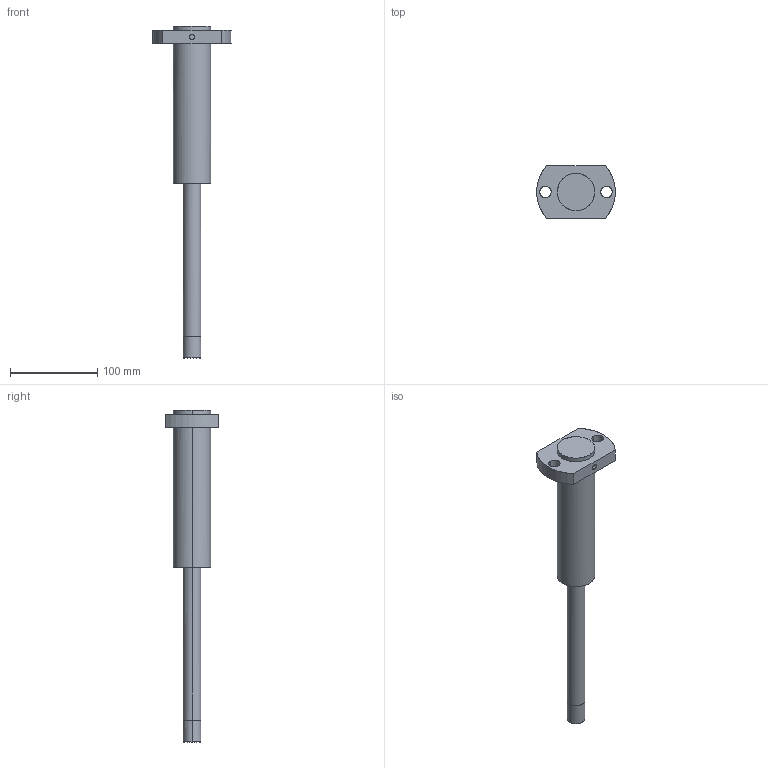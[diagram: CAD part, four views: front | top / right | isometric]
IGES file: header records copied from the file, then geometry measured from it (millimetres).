
Global section: file name: E:\UnigraphicsGraphicData\MISUMI_PRESS-PARTS\IGES\3d_papzu20-200-180-160-175_01716_r00.igs; native system: NX V5.0; preprocessor: UGS NX IGES V5.0; author: MISUMI; date: 20110105.162230; units: millimetre
Bounding box: 90 x 60 x 380 mm (x, y, z)
Surface area: 56026.1 mm2 (no closed solid volume)
Topology: 0 solids, 0 shells, 32 faces, 292 edges, 292 vertices
Faces by surface type: bspline 32
